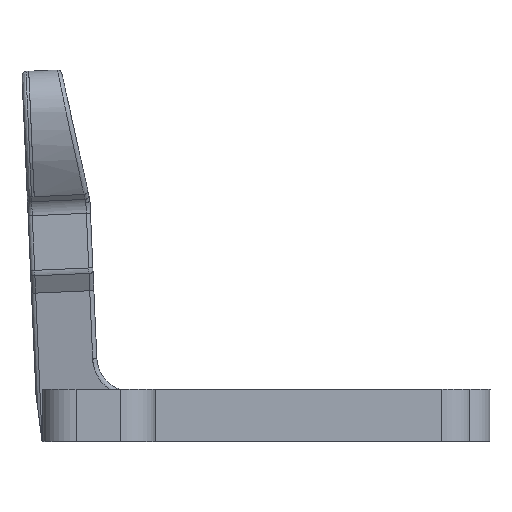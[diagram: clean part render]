
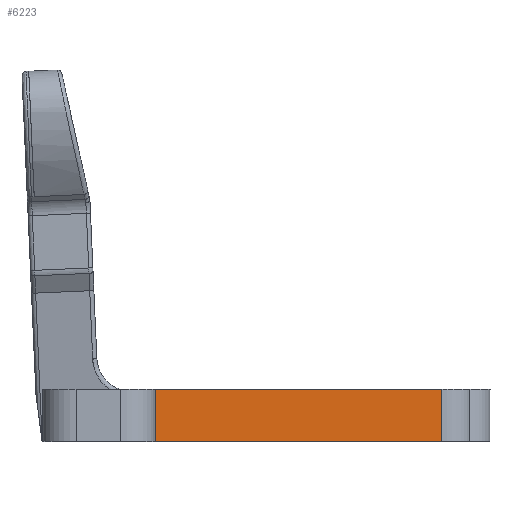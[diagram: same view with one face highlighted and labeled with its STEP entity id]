
A CAD part, top view. The second image highlights one B-rep face of the part: STEP entity #6223.
In plain terms, the highlighted planar face has unit normal (0, 0, 1).
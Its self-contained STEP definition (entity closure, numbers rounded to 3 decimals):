
#623=FACE_OUTER_BOUND('',#971,.T.);
#971=EDGE_LOOP('',(#5763,#5764,#5765,#5766));
#1414=LINE('',#8594,#1913);
#1430=LINE('',#8650,#1929);
#1591=LINE('',#10118,#2090);
#1846=LINE('',#19962,#2345);
#1913=VECTOR('',#6886,10.);
#1929=VECTOR('',#6932,10.);
#2090=VECTOR('',#7395,10.);
#2345=VECTOR('',#8206,10.);
#2440=VERTEX_POINT('',#8591);
#2441=VERTEX_POINT('',#8593);
#2466=VERTEX_POINT('',#8648);
#2684=VERTEX_POINT('',#10117);
#3068=EDGE_CURVE('',#2441,#2440,#1414,.T.);
#3097=EDGE_CURVE('',#2466,#2440,#1430,.T.);
#3389=EDGE_CURVE('',#2441,#2684,#1591,.T.);
#3901=EDGE_CURVE('',#2684,#2466,#1846,.T.);
#5763=ORIENTED_EDGE('',*,*,#3389,.F.);
#5764=ORIENTED_EDGE('',*,*,#3068,.T.);
#5765=ORIENTED_EDGE('',*,*,#3097,.F.);
#5766=ORIENTED_EDGE('',*,*,#3901,.F.);
#5906=PLANE('',#6729);
#6223=ADVANCED_FACE('',(#623),#5906,.F.);
#6729=AXIS2_PLACEMENT_3D('',#19961,#8204,#8205);
#6886=DIRECTION('',(0.,-1.,0.));
#6932=DIRECTION('',(-1.,0.,0.));
#7395=DIRECTION('',(1.,0.,0.));
#8204=DIRECTION('center_axis',(0.,0.,
-1.));
#8205=DIRECTION('ref_axis',(-1.,0.,0.));
#8206=DIRECTION('',(0.,-1.,0.));
#8591=CARTESIAN_POINT('',(-14.193,5.849,43.26));
#8593=CARTESIAN_POINT('',(-14.193,13.349,43.26));
#8594=CARTESIAN_POINT('',(-14.193,0.349,43.26));
#8648=CARTESIAN_POINT('',(27.142,5.849,43.26));
#8650=CARTESIAN_POINT('',(27.142,5.849,43.26));
#10117=CARTESIAN_POINT('',(27.142,13.349,43.26));
#10118=CARTESIAN_POINT('',(28.257,13.349,43.26));
#19961=CARTESIAN_POINT('Origin',(23.872,-9.651,43.26));
#19962=CARTESIAN_POINT('',(27.142,1.551,43.26));
